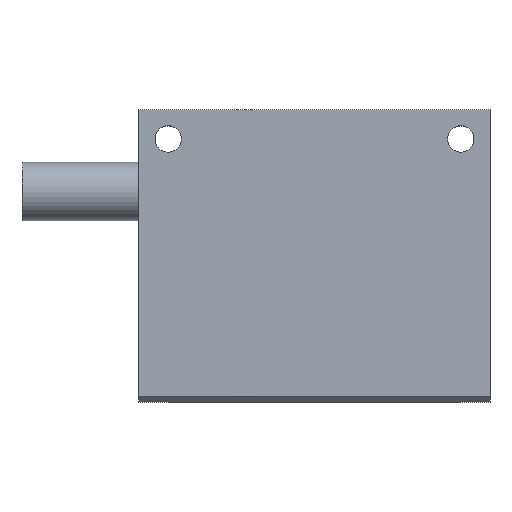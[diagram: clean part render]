
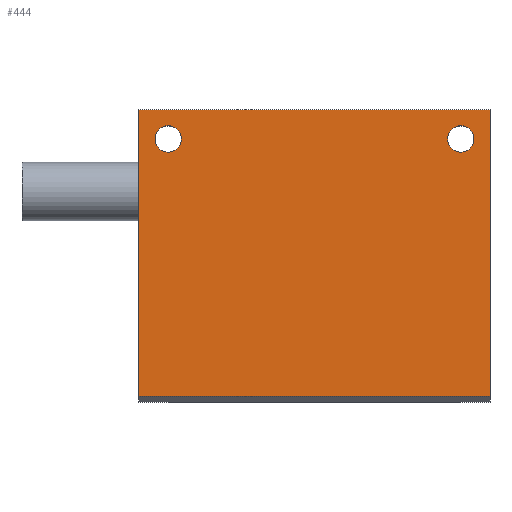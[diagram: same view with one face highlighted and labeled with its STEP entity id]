
A CAD part, top view. The second image highlights one B-rep face of the part: STEP entity #444.
In plain terms, the highlighted planar face has unit normal (0, 0, 1).
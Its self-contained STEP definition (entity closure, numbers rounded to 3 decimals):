
#24=FACE_BOUND('',#95,.T.);
#25=FACE_BOUND('',#96,.T.);
#34=PLANE('',#498);
#62=FACE_OUTER_BOUND('',#94,.T.);
#94=EDGE_LOOP('',(#354,#355,#356,#357));
#95=EDGE_LOOP('',(#358));
#96=EDGE_LOOP('',(#359));
#128=LINE('',#694,#175);
#131=LINE('',#700,#178);
#133=LINE('',#704,#180);
#134=LINE('',#705,#181);
#175=VECTOR('',#569,10.);
#178=VECTOR('',#574,10.);
#180=VECTOR('',#578,10.);
#181=VECTOR('',#579,10.);
#213=CIRCLE('',#489,2.25);
#215=CIRCLE('',#492,2.25);
#223=VERTEX_POINT('',#662);
#225=VERTEX_POINT('',#668);
#234=VERTEX_POINT('',#691);
#235=VERTEX_POINT('',#693);
#237=VERTEX_POINT('',#698);
#238=VERTEX_POINT('',#703);
#263=EDGE_CURVE('',#223,#223,#213,.T.);
#266=EDGE_CURVE('',#225,#225,#215,.T.);
#278=EDGE_CURVE('',#234,#235,#128,.T.);
#281=EDGE_CURVE('',#237,#234,#131,.T.);
#283=EDGE_CURVE('',#238,#237,#133,.T.);
#284=EDGE_CURVE('',#235,#238,#134,.T.);
#354=ORIENTED_EDGE('',*,*,#281,.F.);
#355=ORIENTED_EDGE('',*,*,#283,.F.);
#356=ORIENTED_EDGE('',*,*,#284,.F.);
#357=ORIENTED_EDGE('',*,*,#278,.F.);
#358=ORIENTED_EDGE('',*,*,#263,.T.);
#359=ORIENTED_EDGE('',*,*,#266,.T.);
#444=ADVANCED_FACE('',(#62,#24,#25),#34,.T.);
#489=AXIS2_PLACEMENT_3D('',#663,#542,#543);
#492=AXIS2_PLACEMENT_3D('',#669,#549,#550);
#498=AXIS2_PLACEMENT_3D('',#702,#576,#577);
#542=DIRECTION('center_axis',(0.,0.,-1.));
#543=DIRECTION('ref_axis',(1.,0.,0.));
#549=DIRECTION('center_axis',(0.,0.,-1.));
#550=DIRECTION('ref_axis',(1.,0.,0.));
#569=DIRECTION('',(0.,1.,0.));
#574=DIRECTION('',(-1.,0.,0.));
#576=DIRECTION('center_axis',(0.,0.,1.));
#577=DIRECTION('ref_axis',(0.,-1.,0.));
#578=DIRECTION('',(0.,-1.,0.));
#579=DIRECTION('',(1.,0.,0.));
#662=CARTESIAN_POINT('',(22.75,20.,10.));
#663=CARTESIAN_POINT('Origin',(25.,20.,10.));
#668=CARTESIAN_POINT('',(72.75,20.,10.));
#669=CARTESIAN_POINT('Origin',(75.,20.,10.));
#691=CARTESIAN_POINT('',(20.,-24.,10.));
#693=CARTESIAN_POINT('',(20.,25.,10.));
#694=CARTESIAN_POINT('',(20.,-25.,10.));
#698=CARTESIAN_POINT('',(80.,-24.,10.));
#700=CARTESIAN_POINT('',(20.,-24.,10.));
#702=CARTESIAN_POINT('Origin',(20.,25.,10.));
#703=CARTESIAN_POINT('',(80.,25.,10.));
#704=CARTESIAN_POINT('',(80.,-25.,10.));
#705=CARTESIAN_POINT('',(20.,25.,10.));
